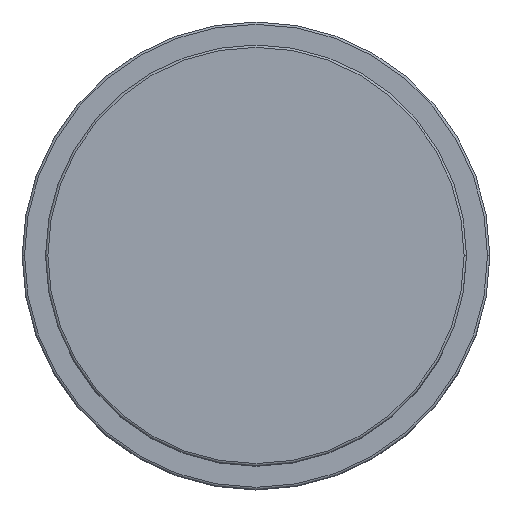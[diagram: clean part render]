
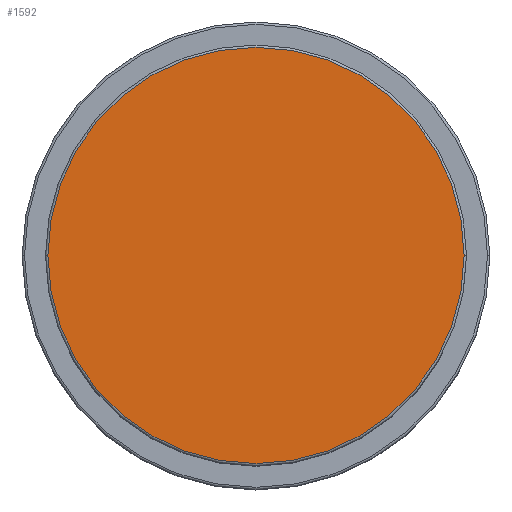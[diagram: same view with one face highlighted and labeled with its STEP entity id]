
A CAD part, top view. The second image highlights one B-rep face of the part: STEP entity #1592.
In plain terms, the highlighted planar face has unit normal (0, 0, 1).
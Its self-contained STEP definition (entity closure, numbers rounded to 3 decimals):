
#174 = EDGE_CURVE ( 'NONE', #688, #801, #951, .T. ) ;
#180 = CARTESIAN_POINT ( 'NONE',  ( 0., 0., 67. ) ) ;
#338 = ORIENTED_EDGE ( 'NONE', *, *, #842, .T. ) ;
#384 = AXIS2_PLACEMENT_3D ( 'NONE', #1475, #1608, #939 ) ;
#426 = AXIS2_PLACEMENT_3D ( 'NONE', #1015, #1148, #1021 ) ;
#449 = EDGE_LOOP ( 'NONE', ( #338, #739 ) ) ;
#524 = FACE_OUTER_BOUND ( 'NONE', #449, .T. ) ;
#626 = DIRECTION ( 'NONE',  ( 0., 0., 1. ) ) ;
#688 = VERTEX_POINT ( 'NONE', #996 ) ;
#739 = ORIENTED_EDGE ( 'NONE', *, *, #174, .T. ) ;
#757 = CARTESIAN_POINT ( 'NONE',  ( 44.5, 0., 67. ) ) ;
#801 = VERTEX_POINT ( 'NONE', #757 ) ;
#842 = EDGE_CURVE ( 'NONE', #801, #688, #997, .T. ) ;
#939 = DIRECTION ( 'NONE',  ( 1., 0., 0. ) ) ;
#951 = CIRCLE ( 'NONE', #1414, 44.5 ) ;
#996 = CARTESIAN_POINT ( 'NONE',  ( -44.5, 0., 67. ) ) ;
#997 = CIRCLE ( 'NONE', #426, 44.5 ) ;
#1015 = CARTESIAN_POINT ( 'NONE',  ( 0., 0., 67. ) ) ;
#1021 = DIRECTION ( 'NONE',  ( 1., 0., 0. ) ) ;
#1148 = DIRECTION ( 'NONE',  ( 0., 0., 1. ) ) ;
#1414 = AXIS2_PLACEMENT_3D ( 'NONE', #180, #626, #1705 ) ;
#1475 = CARTESIAN_POINT ( 'NONE',  ( 0., 0., 67. ) ) ;
#1592 = ADVANCED_FACE ( 'NONE', ( #524 ), #1601, .T. ) ;
#1601 = PLANE ( 'NONE',  #384 ) ;
#1608 = DIRECTION ( 'NONE',  ( 0., 0., 1. ) ) ;
#1705 = DIRECTION ( 'NONE',  ( 1., 0., 0. ) ) ;
